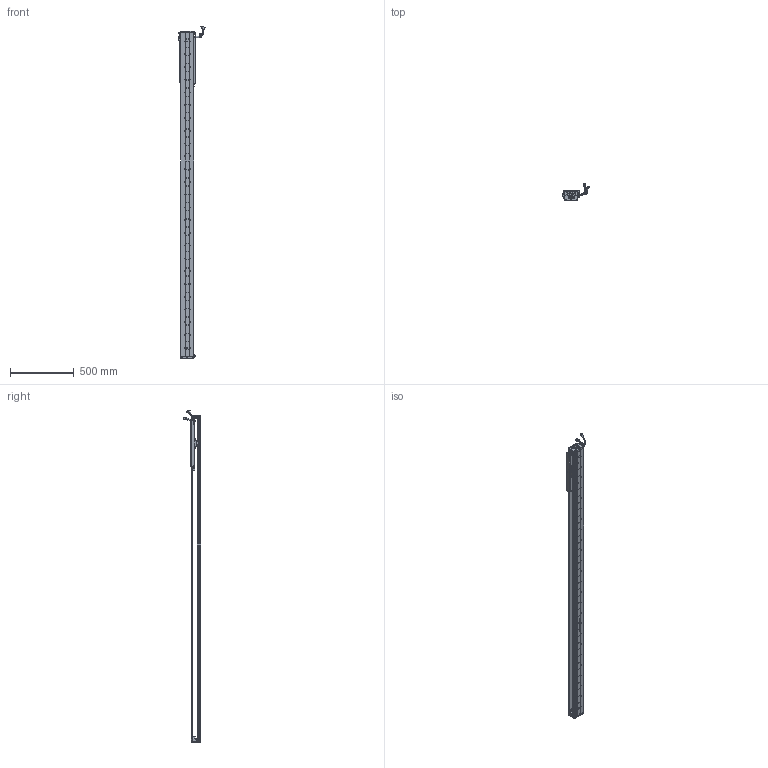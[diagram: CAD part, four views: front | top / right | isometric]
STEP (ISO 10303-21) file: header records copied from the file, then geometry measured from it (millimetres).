
FILE_DESCRIPTION (( 'STEP AP203' ), '1' );
FILE_NAME ('Z5-RY100D-1-L500-B-K.SLDASM_2100.step', '2021-05-17T03:34:30', ( '盈信电脑' ), ( '东莞市道滘镇水果街19号' ), 'SwSTEP 2.0', 'SolidWorks 2016', '' );
FILE_SCHEMA (( 'CONFIG_CONTROL_DESIGN' ));
Length unit declared in the file: millimetre
Products named in the file (36): 覜茼ん672; COVER-Part-1; SCREW-M1.7; PBU_SHEET; SCREW-M1.6-2; Z-RY100D覜茼んえ; 140蚥薯蝶輸; COVER; Z-RY100D詩湍奻揤裔; 榋妏寠巭燃_暯_M2_2; SCREW-M1.7-1; SCREW-M1.6-1; HARNESS; Z-100詩湍傷裔啣; 080黍杅芛假蚾釱21遴; 100-Z-臏賑輸盄裔(21遴); SCREW-M1.6; Z5-RY100-L500詩湍90mm遵_2100; Z5-RY100D-500-倰第菁釱_2100; HOLDER0; 140雄赽晤鎢ん堤盄; SEAL; SCALE-Part-2; SHIELDPLATE; SCREW-M1.6-3; HARNESS-Part-2; Z5-RY100铝滑块（21款）; PSLH080_PSLF2; SEAL-Part-1; Z5-RY100D-1-L500-B-K.SLDASM_2100; Z-RY100D詩湍狟揤裔; SCALE; LABEL; SCALE-Part-1; LABEL-Part-1; HARNESS-Part-1
Assembly tree (43 placements, depth 4):
  Z5-RY100D-1-L500-B-K.SLDASM_2100
    Z5-RY100D-500-倰第菁釱_2100
    Z5-RY100铝滑块（21款）
    PSLH080_PSLF2
      SCALE
        SCALE-Part-1
        SCALE-Part-2
      HARNESS
        HARNESS-Part-1
        HARNESS-Part-2
      LABEL
        LABEL-Part-1
      COVER
        COVER-Part-1
      SEAL
        SEAL-Part-1
      榋妏寠巭燃_暯_M2_2
      SHIELDPLATE
      SCREW-M1.7
      SCREW-M1.7-1
      PBU_SHEET
      SCREW-M1.6
      SCREW-M1.6-1
      SCREW-M1.6-2
      SCREW-M1.6-3
      HOLDER0
    080黍杅芛假蚾釱21遴
    Z-100詩湍傷裔啣  x2
    140蚥薯蝶輸  x2
    覜茼ん672  x3
    Z-RY100D覜茼んえ  x3
    100-Z-臏賑輸盄裔(21遴)
    140雄赽晤鎢ん堤盄
    Z5-RY100-L500詩湍90mm遵_2100
    Z-RY100D詩湍狟揤裔  x2
    Z-RY100D詩湍奻揤裔  x2
Bounding box: 205.84 x 136.11 x 2600.43 mm (x, y, z)
Volume: 4990059.9 mm3; surface area: 1928352.1 mm2
Topology: 38 solids, 38 shells, 2991 faces, 8143 edges, 5196 vertices
Faces by surface type: cylinder 1462, plane 1181, cone 226, torus 69, bspline 53
Entity records: 86317 total; most frequent: CARTESIAN_POINT 18067, DIRECTION 13917, ORIENTED_EDGE 13166, EDGE_CURVE 6583, AXIS2_PLACEMENT_3D 5230, VERTEX_POINT 4264, LINE 3457, VECTOR 3457
